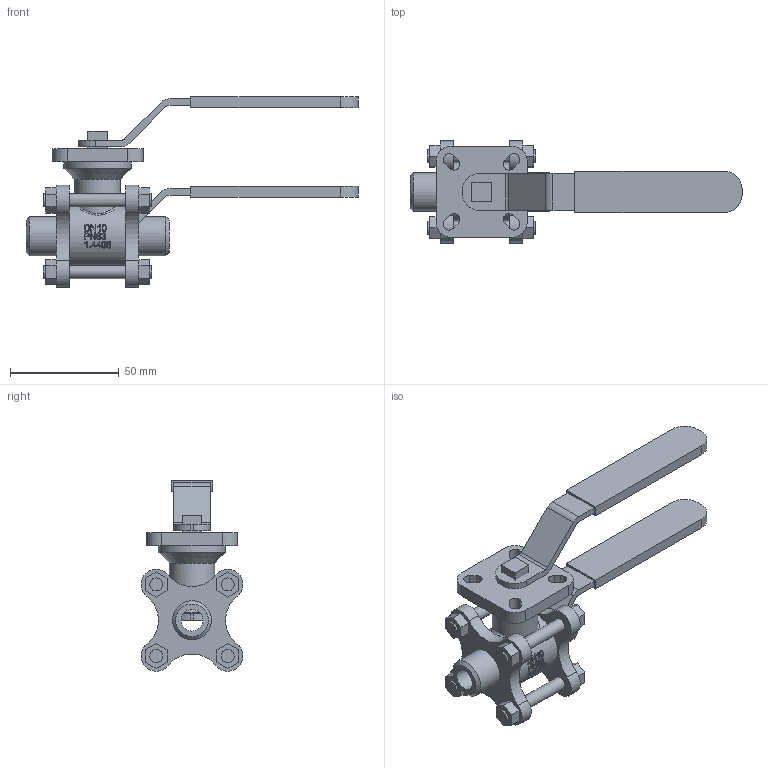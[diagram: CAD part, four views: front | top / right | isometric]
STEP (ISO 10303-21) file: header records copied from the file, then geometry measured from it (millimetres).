
FILE_DESCRIPTION( ( 'Unknown' ), '1' );
FILE_NAME( 'W:/ECCUA/ROOTSI BPS 3D vidinad/Kuulkraanid/Roostevaba kuulkraanid/Ball valve BPS 2421/Ball valve with hand lever BPS/STEP format/BPS 2421010 ball valve DN10.stp', 'Unknown', ( 'Unknown' ), ( 'Unknown' ), 'PSStep 10.1', 'Unknown', ' ' );
FILE_SCHEMA( ( 'AUTOMOTIVE_DESIGN { 1 0 10303 214 1 1 1 1 }' ) );
Length unit declared in the file: millimetre
Products named in the file (3): Assem1; Hand lever for ball valve DN8-20 BPS 2420-21; BPS 2421010 ball valve DN10
Bounding box: 153 x 46.98 x 87.79 mm (x, y, z)
Volume: 148011.6 mm3; surface area: 56217.1 mm2
Topology: 4 solids, 4 shells, 572 faces, 1422 edges, 944 vertices
Faces by surface type: plane 336, cylinder 156, bspline 74, cone 6
Full cylindrical faces by diameter (mm): 3 x2, 6 x24, 10 x2, 18 x4, 21 x2, 29 x2, 31 x2
Entity records: 14411 total; most frequent: CARTESIAN_POINT 5924, ORIENTED_EDGE 1346, DIRECTION 1020, EDGE_CURVE 673, VERTEX_POINT 464, EDGE_LOOP 379, AXIS2_PLACEMENT_3D 378, FACE_OUTER_BOUND 313
